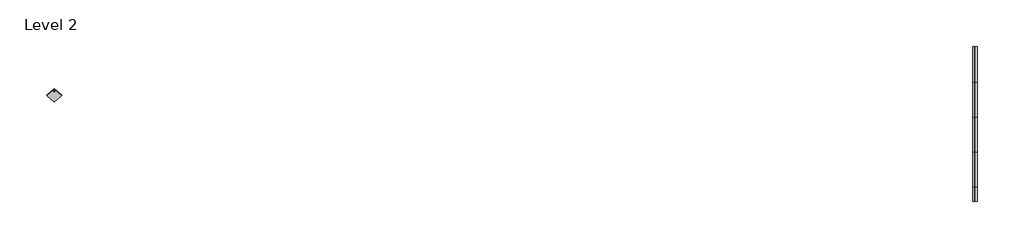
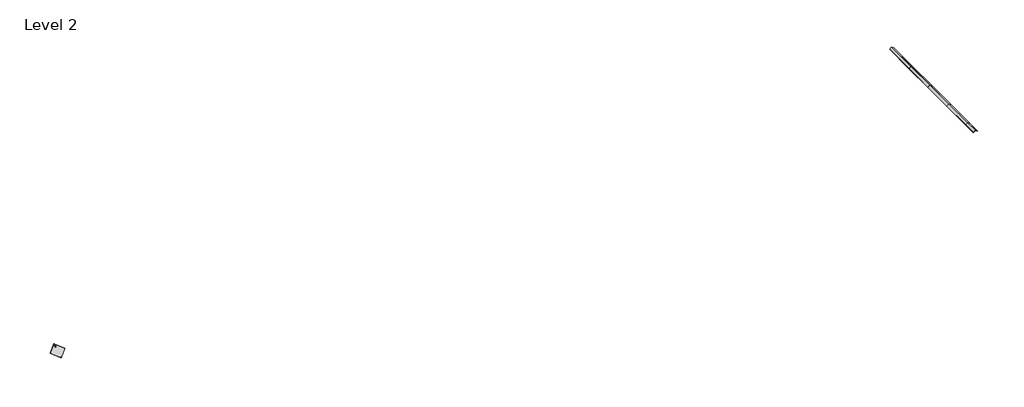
# One storey: 10 beams, 1 proxy.
"""IFC4 building model written with IfcOpenShell, lengths in millimetres."""

from ifc_helpers import new_model, si_unit, origin, place, context, project, spatial, transform, mapped, element, save
from components import structural_framing_105_structural_framing_15_bbb8b2a2, structural_framing_155_structural_framing_15_fbad98d9, structural_framing_156_structural_framing_15_8572bb24, structural_framing_159_structural_framing_15_e730e61d, structural_framing_100_structural_framing_15_5def26a6, structural_framing_109_structural_framing_15_08dff260, roofing_panels_sunstyle_tile_non_pv_shingle_non_pv_shingle_be952c39

model = new_model("IFC4")

# Units and contexts
model_context = context("Model", 3, world=origin())
ifc_project = project(units=[si_unit("LENGTHUNIT", "METRE", prefix="MILLI")], contexts=[model_context])

# Site, building, storey
site = spatial("IfcSite", under=ifc_project)
building = spatial("IfcBuilding", under=site)
storey = spatial("IfcBuildingStorey", under=building, Name="Level 2", Elevation=2687.5)

# Beams
placement = place(None, origin())
structural_framing_105_structural_framing_15_shape = structural_framing_105_structural_framing_15_bbb8b2a2(model_context)
element("IfcBeam", 1, ObjectType="Structural Framing 15 : Structural Framing 15", at=placement, inside=storey, context=model_context, shape_type="MappedRepresentation", body=[
    mapped(structural_framing_105_structural_framing_15_shape, transform((57.4878711, 0.0, 0.0), x_axis=(1.0, 0.0, 0.0), y_axis=(0.0, 1.0, 0.0), z_axis=(0.0, 0.0, 1.0))),
])
structural_framing_155_structural_framing_15_shape = structural_framing_155_structural_framing_15_fbad98d9(model_context)
element("IfcBeam", 2, ObjectType="Structural Framing 155 : Structural Framing 15", at=placement, inside=storey, context=model_context, shape_type="MappedRepresentation", body=[
    mapped(structural_framing_155_structural_framing_15_shape, transform((57.4878711, 0.0, 0.0), x_axis=(1.0, 0.0, 0.0), y_axis=(0.0, 1.0, 0.0), z_axis=(0.0, 0.0, 1.0))),
])
structural_framing_156_structural_framing_15_shape = structural_framing_156_structural_framing_15_8572bb24(model_context)
element("IfcBeam", 3, ObjectType="Structural Framing 156 : Structural Framing 15", at=placement, inside=storey, context=model_context, shape_type="MappedRepresentation", body=[
    mapped(structural_framing_156_structural_framing_15_shape, transform((57.4878711, -2470.0, 0.0), x_axis=(1.0, 0.0, 0.0), y_axis=(0.0, 1.0, 0.0), z_axis=(0.0, 0.0, 1.0))),
])
element("IfcBeam", 4, ObjectType="Structural Framing 157 : Structural Framing 15", at=placement, inside=storey, context=model_context, shape_type="MappedRepresentation", body=[
    mapped(structural_framing_156_structural_framing_15_shape, transform((57.4878711, -4870.0, 0.0), x_axis=(1.0, 0.0, 0.0), y_axis=(0.0, 1.0, 0.0), z_axis=(0.0, 0.0, 1.0))),
])
element("IfcBeam", 5, ObjectType="Structural Framing 158 : Structural Framing 15", at=placement, inside=storey, context=model_context, shape_type="MappedRepresentation", body=[
    mapped(structural_framing_156_structural_framing_15_shape, transform((57.4878711, -7270.0, 0.0), x_axis=(1.0, 0.0, 0.0), y_axis=(0.0, 1.0, 0.0), z_axis=(0.0, 0.0, 1.0))),
])
structural_framing_159_structural_framing_15_shape = structural_framing_159_structural_framing_15_e730e61d(model_context)
element("IfcBeam", 6, ObjectType="Structural Framing 159 : Structural Framing 15", at=placement, inside=storey, context=model_context, shape_type="MappedRepresentation", body=[
    mapped(structural_framing_159_structural_framing_15_shape, transform((57.4878711, -9670.0, 0.0), x_axis=(1.0, 0.0, 0.0), y_axis=(0.0, 1.0, 0.0), z_axis=(0.0, 0.0, 1.0))),
])
structural_framing_100_structural_framing_15_shape = structural_framing_100_structural_framing_15_5def26a6(model_context)
element("IfcBeam", 7, ObjectType="Structural Framing 16 : Structural Framing 15", at=placement, inside=storey, context=model_context, shape_type="MappedRepresentation", body=[
    mapped(structural_framing_100_structural_framing_15_shape, transform((57.4878711, -2470.0, 0.0), x_axis=(1.0, 0.0, 0.0), y_axis=(0.0, 1.0, 0.0), z_axis=(0.0, 0.0, 1.0))),
])
element("IfcBeam", 8, ObjectType="Structural Framing 17 : Structural Framing 15", at=placement, inside=storey, context=model_context, shape_type="MappedRepresentation", body=[
    mapped(structural_framing_100_structural_framing_15_shape, transform((57.4878711, -4870.0, 0.0), x_axis=(1.0, 0.0, 0.0), y_axis=(0.0, 1.0, 0.0), z_axis=(0.0, 0.0, 1.0))),
])
element("IfcBeam", 9, ObjectType="Structural Framing 18 : Structural Framing 15", at=placement, inside=storey, context=model_context, shape_type="MappedRepresentation", body=[
    mapped(structural_framing_100_structural_framing_15_shape, transform((57.4878711, -7270.0, 0.0), x_axis=(1.0, 0.0, 0.0), y_axis=(0.0, 1.0, 0.0), z_axis=(0.0, 0.0, 1.0))),
])
structural_framing_109_structural_framing_15_shape = structural_framing_109_structural_framing_15_08dff260(model_context)
element("IfcBeam", 10, ObjectType="Structural Framing 19 : Structural Framing 15", at=placement, inside=storey, context=model_context, shape_type="MappedRepresentation", body=[
    mapped(structural_framing_109_structural_framing_15_shape, transform((57.4878711, -9670.0, 0.0), x_axis=(1.0, 0.0, 0.0), y_axis=(0.0, 1.0, 0.0), z_axis=(0.0, 0.0, 1.0))),
])

# Proxy
roofing_panels_sunstyle_tile_non_pv_shingle_non_pv_shingle_shape = roofing_panels_sunstyle_tile_non_pv_shingle_non_pv_shingle_be952c39(model_context)
element("IfcBuildingElementProxy", 11, Name="Roofing_Panels_SunStyle_Tile_Non-PV-Shingle : Non PV Shingle - Silver", ObjectType="Roofing_Panels_SunStyle_Tile_Non-PV-Shingle : Non PV Shingle - Silver", at=placement, inside=storey, context=model_context, shape_type="MappedRepresentation", body=[
    mapped(roofing_panels_sunstyle_tile_non_pv_shingle_non_pv_shingle_shape, transform((-61887.8645932, 574.8326321, 3418.1219144), x_axis=(1.0, 0.0, 0.0), y_axis=(0.0, 0.866025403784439, 0.49999999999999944), z_axis=(0.0, -0.49999999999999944, 0.866025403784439))),
])

save(model, "model.ifc")
